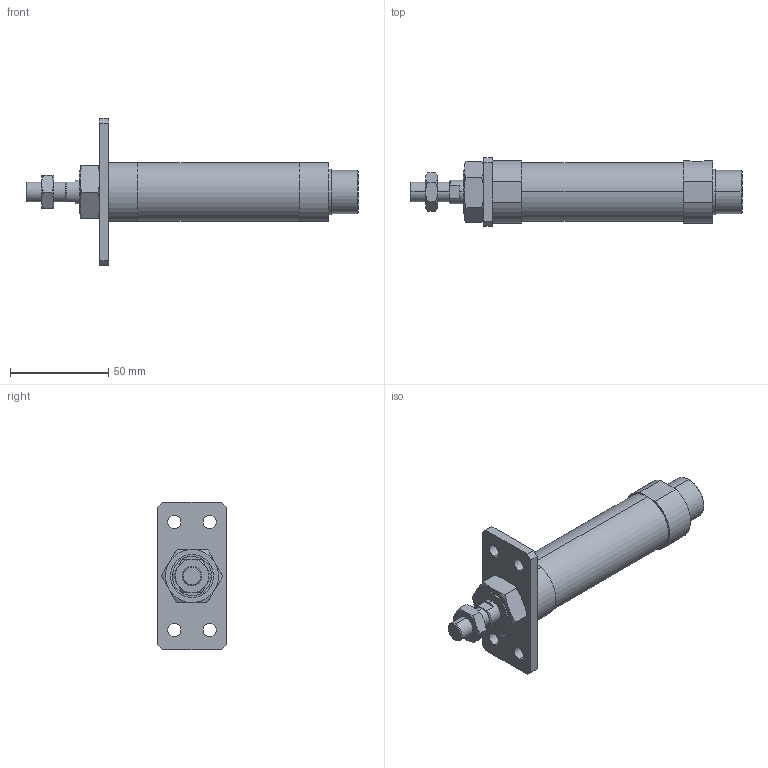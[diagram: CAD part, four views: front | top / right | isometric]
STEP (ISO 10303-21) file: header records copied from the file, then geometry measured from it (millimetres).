
FILE_DESCRIPTION (( 'STEP AP203' ), '1' );
FILE_NAME ('J#1-25-25-A.STEP', '2016-03-08T06:45:51', ( '' ), ( '' ), 'SwSTEP 2.0', 'SolidWorks 2014', '' );
FILE_SCHEMA (( 'CONFIG_CONTROL_DESIGN' ));
Length unit declared in the file: millimetre
Products named in the file (5): J#1-25-25-A; J#2-25-A; J#1-25-25
Assembly tree (4 placements, depth 2):
  J#1-25-25-A
    J#1-25-25
    (unnamed)
    (unnamed)
    J#2-25-A
Bounding box: 169 x 35 x 75 mm (x, y, z)
Volume: 107589.6 mm3; surface area: 24820.1 mm2
Topology: 4 solids, 4 shells, 113 faces, 258 edges, 157 vertices
Faces by surface type: plane 47, cylinder 34, torus 24, cone 8
Entity records: 3959 total; most frequent: CARTESIAN_POINT 907, DIRECTION 542, ORIENTED_EDGE 512, EDGE_CURVE 256, AXIS2_PLACEMENT_3D 220, VERTEX_POINT 157, EDGE_LOOP 133, ADVANCED_FACE 113
